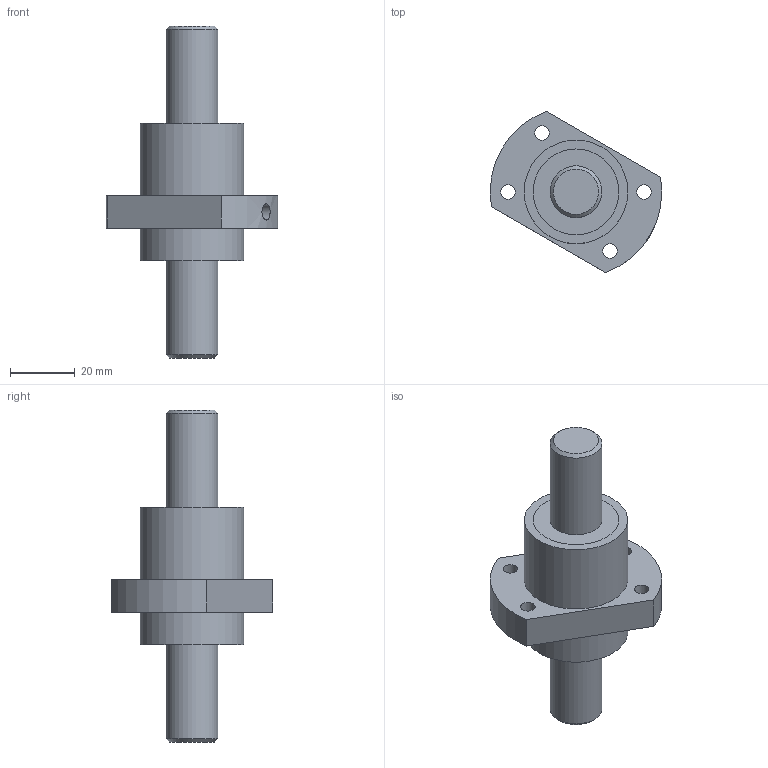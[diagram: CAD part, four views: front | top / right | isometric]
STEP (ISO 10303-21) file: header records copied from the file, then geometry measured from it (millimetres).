
FILE_DESCRIPTION(/* description */ (''),/* implementation_level */ '2;1');
FILE_NAME(/* name */ 'SFY1632.stp',/* time_stamp */ '2013-11-01T09:46:28+08:00',/* author */ (''),/* organization */ (''),/* preprocessor_version */ 'ST-DEVELOPER v11',/* originating_system */ 'SIEMENS UGS NX 6.0',/* authorisation */ '');
FILE_SCHEMA (('CONFIG_CONTROL_DESIGN'));
Length unit declared in the file: millimetre
Products named in the file (1): fann640Fk5mx
Bounding box: 53 x 49.77 x 102.5 mm (x, y, z)
Volume: 54074.1 mm3; surface area: 19883.6 mm2
Topology: 4 solids, 4 shells, 50 faces, 95 edges, 66 vertices
Faces by surface type: cylinder 25, plane 23, cone 2
Full cylindrical faces by diameter (mm): 4.5 x4, 5 x1, 16 x4, 26 x4, 26.5 x4, 28 x4, 32 x2
Entity records: 1246 total; most frequent: CARTESIAN_POINT 225, DIRECTION 214, ORIENTED_EDGE 120, AXIS2_PLACEMENT_3D 103, EDGE_LOOP 102, FACE_BOUND 96, EDGE_CURVE 60, VERTEX_POINT 56
